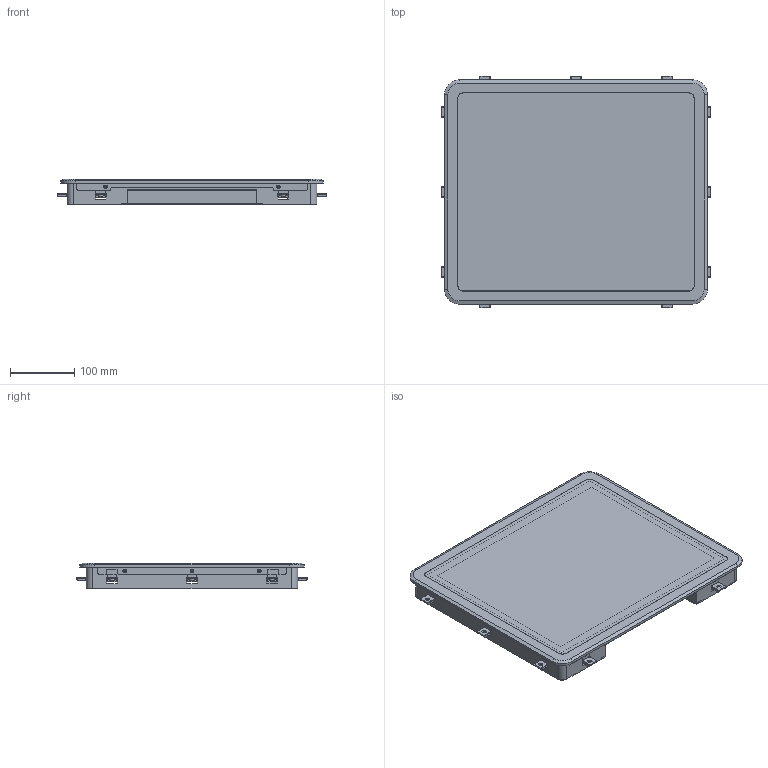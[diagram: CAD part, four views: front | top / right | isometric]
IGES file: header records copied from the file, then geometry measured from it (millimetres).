
Global section: file name: FIE170UM; native system: AutoCAD 2019 – 繁體中文 (Traditional Chinese),62HAutode; preprocessor: sk Translation Framework DWG producer (atf_dwg_producer); organization: unknown; date: 20210622.102224; units: millimetre
Bounding box: 421 x 361 x 40 mm (x, y, z)
Volume: 2042748.3 mm3; surface area: 1198648.2 mm2
Topology: 21 solids, 22 shells, 1496 faces, 3978 edges, 2667 vertices
Faces by surface type: bspline 1496
